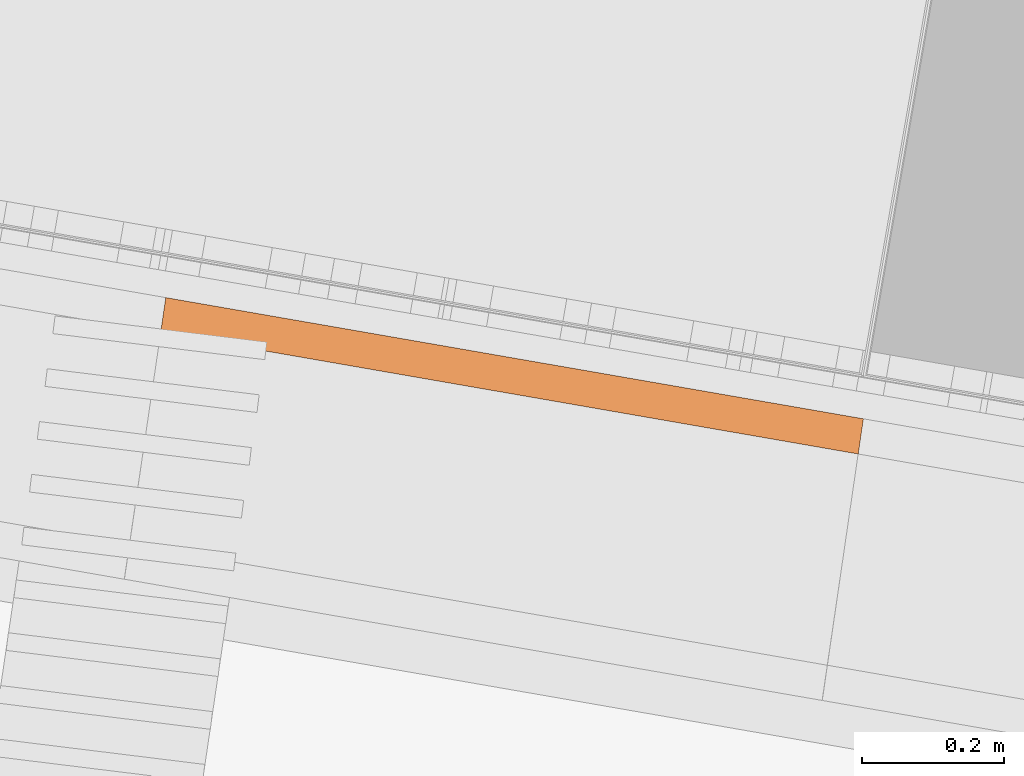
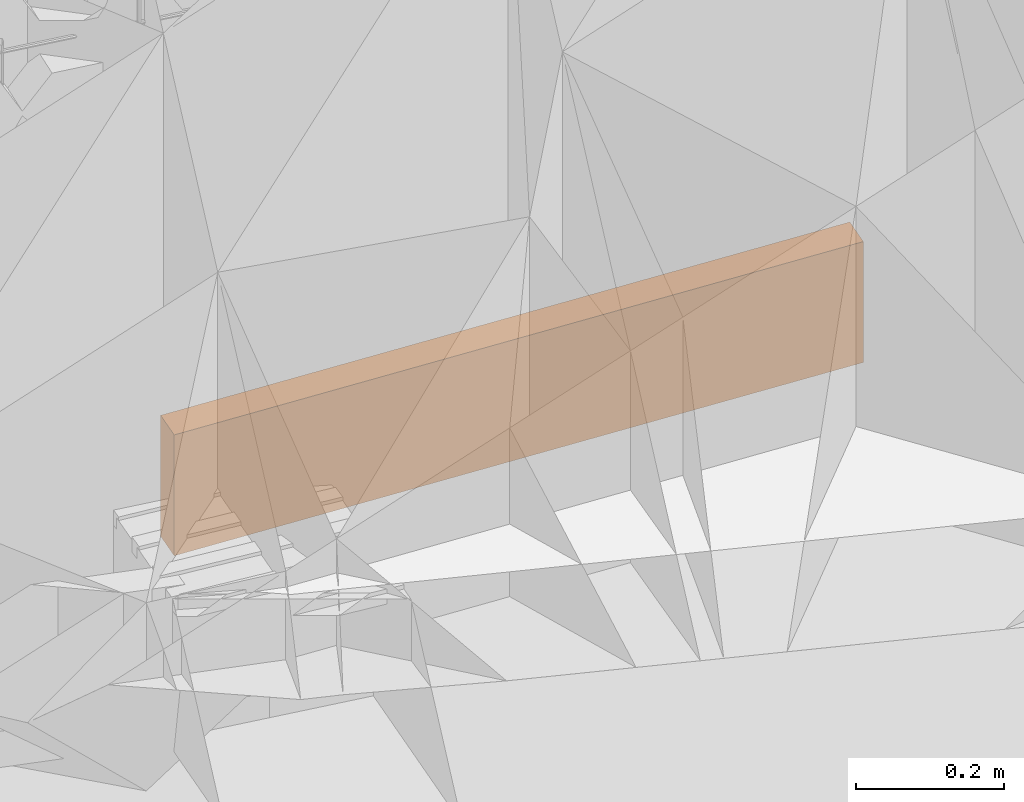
# Not in any storey, part 19 of 46: 1 proxy.
"""IFC4 model written with IfcOpenShell, lengths in metres."""

from ifc_helpers import new_model, si_unit, direction, frame, origin_with_axes, place, context, subcontext, project, spatial, polygons, material, element, save


model = new_model("IFC4")

# Units and contexts
model_context = context("Model", 3, precision=1e-05, world=origin_with_axes(), true_north=direction((0.0, 1.0)))
body_context = subcontext(model_context, "Body", "Model", "MODEL_VIEW")
ifc_project = project(units=[si_unit("VOLUMEUNIT", "CUBIC_METRE"), si_unit("LENGTHUNIT", "METRE"), si_unit("AREAUNIT", "SQUARE_METRE")], contexts=[model_context])

# Site
site_placement = place(None, origin_with_axes())
site = spatial("IfcSite", under=ifc_project, at=site_placement, Name="Lares · Rua das Mercês · artigo 4771")

# Proxy
ifc_material = material(Name="Caleiras · betão", Category="concrete")
proxy_placement = place(site_placement, frame((0.0, 0.0, 0.0), z_axis=(0.0, 0.0, 1.0), x_axis=(1.0, -1.03767253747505e-17, 0.0)))
element("IfcBuildingElementProxy", 1, at=proxy_placement, inside=site, material=ifc_material, Name="Acesso · canal lateral", ObjectType="Acesso · canal lateral", PredefinedType="USERDEFINED", context=body_context, shape_type="Tessellation", body=[
    polygons([(49.9293551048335, 11.7728066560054, 13.38), (49.936611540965, 11.8222772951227, 13.38), (50.9170512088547, 11.6519510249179, 13.46), (50.9097947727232, 11.6024803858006, 13.46), (49.9293551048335, 11.7728066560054, 13.58), (49.936611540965, 11.8222772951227, 13.58), (50.9170512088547, 11.6519510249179, 13.66), (50.9097947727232, 11.6024803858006, 13.66)], [[[4, 3, 2, 1]], [[5, 6, 7, 8]], [[1, 2, 6, 5]], [[2, 3, 7, 6]], [[3, 4, 8, 7]], [[4, 1, 5, 8]]]),
])

save(model, "model.ifc")
